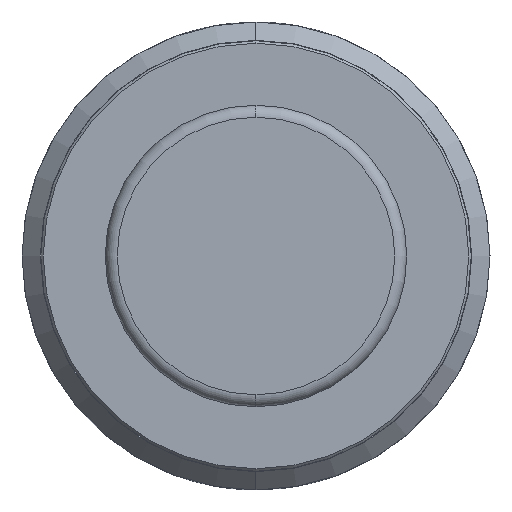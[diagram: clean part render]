
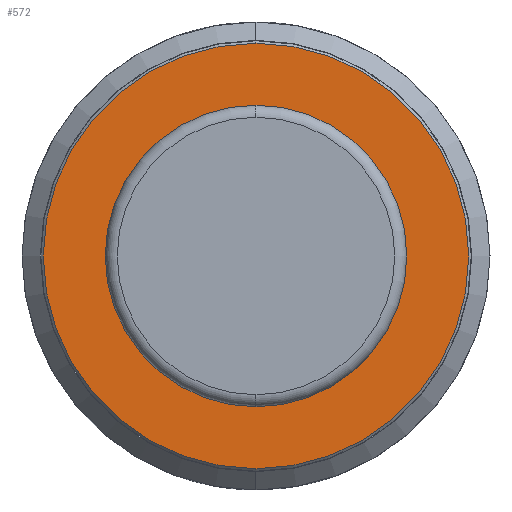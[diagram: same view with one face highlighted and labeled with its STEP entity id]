
A CAD part, left-side view. The second image highlights one B-rep face of the part: STEP entity #572.
In plain terms, the highlighted planar face has unit normal (-1, 0, 0).
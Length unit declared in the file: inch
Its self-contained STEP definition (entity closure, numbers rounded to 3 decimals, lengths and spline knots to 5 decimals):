
#540 = ORIENTED_EDGE ( 'NONE', *, *, #544, .F. ) ;
#544 = EDGE_CURVE ( 'NONE', #835, #821, #1275, .T. ) ;
#547 = ORIENTED_EDGE ( 'NONE', *, *, #593, .T. ) ;
#548 = ORIENTED_EDGE ( 'NONE', *, *, #816, .T. ) ;
#563 = EDGE_LOOP ( 'NONE', ( #567, #540 ) ) ;
#567 = ORIENTED_EDGE ( 'NONE', *, *, #820, .F. ) ;
#572 = ADVANCED_FACE ( 'NONE', ( #1235, #1234 ), #1233, .F. ) ;
#593 = EDGE_CURVE ( 'NONE', #594, #595, #1321, .T. ) ;
#594 = VERTEX_POINT ( 'NONE', #1440 ) ;
#595 = VERTEX_POINT ( 'NONE', #1372 ) ;
#816 = EDGE_CURVE ( 'NONE', #595, #594, #1656, .T. ) ;
#820 = EDGE_CURVE ( 'NONE', #821, #835, #1718, .T. ) ;
#821 = VERTEX_POINT ( 'NONE', #1751 ) ;
#835 = VERTEX_POINT ( 'NONE', #1841 ) ;
#958 = EDGE_LOOP ( 'NONE', ( #548, #547 ) ) ;
#1152 = DIRECTION ( 'NONE',  ( 0., 0., -1. ) ) ;
#1153 = DIRECTION ( 'NONE',  ( 1., 0., 0. ) ) ;
#1154 = CARTESIAN_POINT ( 'NONE',  ( -2.05, 0., 0. ) ) ;
#1155 = AXIS2_PLACEMENT_3D ( 'NONE', #1154, #1153, #1152 ) ;
#1233 = PLANE ( 'NONE',  #1155 ) ;
#1234 = FACE_BOUND ( 'NONE', #958, .T. ) ;
#1235 = FACE_OUTER_BOUND ( 'NONE', #563, .T. ) ;
#1271 = DIRECTION ( 'NONE',  ( 0., 0., -1. ) ) ;
#1272 = DIRECTION ( 'NONE',  ( 1., 0., 0. ) ) ;
#1273 = CARTESIAN_POINT ( 'NONE',  ( -2.05, 0., 0. ) ) ;
#1274 = AXIS2_PLACEMENT_3D ( 'NONE', #1273, #1272, #1271 ) ;
#1275 = CIRCLE ( 'NONE', #1274, 0.441 ) ;
#1318 = DIRECTION ( 'NONE',  ( 0., 0., -1. ) ) ;
#1319 = DIRECTION ( 'NONE',  ( 1., 0., 0. ) ) ;
#1320 = AXIS2_PLACEMENT_3D ( 'NONE', #1327, #1319, #1318 ) ;
#1321 = CIRCLE ( 'NONE', #1320, 0.225 ) ;
#1327 = CARTESIAN_POINT ( 'NONE',  ( -2.05, 0., 0. ) ) ;
#1372 = CARTESIAN_POINT ( 'NONE',  ( -2.05, 0., -0.225 ) ) ;
#1440 = CARTESIAN_POINT ( 'NONE',  ( -2.05, 0., 0.225 ) ) ;
#1656 = CIRCLE ( 'NONE', #1726, 0.225 ) ;
#1662 = CARTESIAN_POINT ( 'NONE',  ( -2.05, 0., 0. ) ) ;
#1715 = DIRECTION ( 'NONE',  ( 1., 0., 0. ) ) ;
#1716 = CARTESIAN_POINT ( 'NONE',  ( -2.05, 0., 0. ) ) ;
#1717 = AXIS2_PLACEMENT_3D ( 'NONE', #1716, #1715, #1752 ) ;
#1718 = CIRCLE ( 'NONE', #1717, 0.441 ) ;
#1724 = DIRECTION ( 'NONE',  ( 0., 0., -1. ) ) ;
#1725 = DIRECTION ( 'NONE',  ( 1., 0., 0. ) ) ;
#1726 = AXIS2_PLACEMENT_3D ( 'NONE', #1662, #1725, #1724 ) ;
#1751 = CARTESIAN_POINT ( 'NONE',  ( -2.05, 0., -0.441 ) ) ;
#1752 = DIRECTION ( 'NONE',  ( 0., 0., -1. ) ) ;
#1841 = CARTESIAN_POINT ( 'NONE',  ( -2.05, 0., 0.441 ) ) ;
